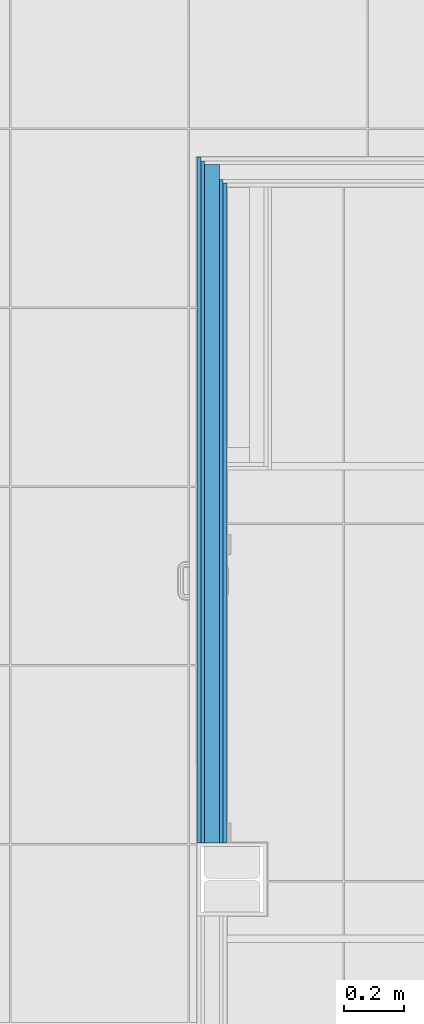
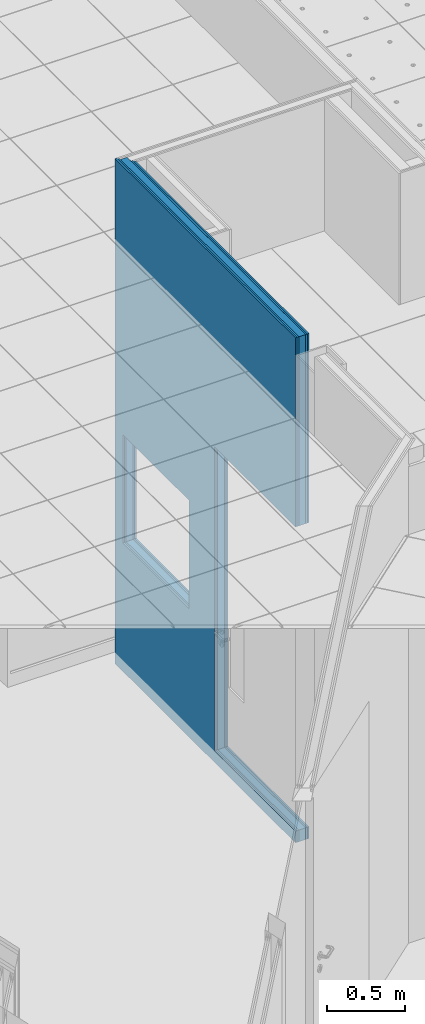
# One storey, part 44 of 321: 5 building element parts, 2 openings, 1 element without a shape of its own.
"""IFC2X3 building model written with IfcOpenShell, lengths in millimetres."""

from ifc_helpers import new_model, entity, si_unit, converted_unit, derived_unit, money_unit, direction, frame, origin_with_axes, place, context, subcontext, project, spatial, faceted_brep, material, type_object, element, aggregate, save


model = new_model("IFC2X3")

# Units and contexts
model_context = context("Model", 3, precision=0.01, world=origin_with_axes(), true_north=direction((0.0, 1.0)))
plan_context = context("Plan", 3, precision=0.01, world=origin_with_axes(), true_north=direction((0.0, 1.0)))
body_context = subcontext(model_context, "Body", "Model", "MODEL_VIEW")
ifc_project = project(units=[si_unit("LENGTHUNIT", "METRE", prefix="MILLI"), si_unit("AREAUNIT", "SQUARE_METRE"), si_unit("VOLUMEUNIT", "CUBIC_METRE"), converted_unit("PLANEANGLEUNIT", "DEGREE", entity("IfcPlaneAngleMeasure", 0.0174532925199), si_unit("PLANEANGLEUNIT", "RADIAN"), dimensions=[0, 0, 0, 0, 0, 0, 0]), money_unit("EUR"), converted_unit("TIMEUNIT", "Year", entity("IfcTimeMeasure", 31556926.0), si_unit("TIMEUNIT", "SECOND"), dimensions=[0, 0, 1, 0, 0, 0, 0]), si_unit("MASSUNIT", "GRAM", prefix="KILO"), si_unit("THERMODYNAMICTEMPERATUREUNIT", "DEGREE_CELSIUS"), si_unit("LUMINOUSINTENSITYUNIT", "LUMEN"), si_unit("ENERGYUNIT", "JOULE", prefix="MEGA"), derived_unit("THERMALCONDUCTANCEUNIT", [(si_unit("POWERUNIT", "WATT"), 1), (si_unit("LENGTHUNIT", "METRE"), -1), (si_unit("THERMODYNAMICTEMPERATUREUNIT", "KELVIN"), -1)]), derived_unit("SPECIFICHEATCAPACITYUNIT", [(si_unit("ENERGYUNIT", "JOULE"), 1), (si_unit("MASSUNIT", "GRAM", prefix="KILO"), -1), (si_unit("THERMODYNAMICTEMPERATUREUNIT", "KELVIN"), -1)]), derived_unit("MASSDENSITYUNIT", [(si_unit("MASSUNIT", "GRAM", prefix="KILO"), 1), (si_unit("VOLUMEUNIT", "CUBIC_METRE"), -1)])], contexts=[model_context, plan_context])

# Site, building, storey
site_placement = place(None, origin_with_axes())
site = spatial("IfcSite", under=ifc_project, at=site_placement, Name="Fortuinstraat Woensdrecht", CompositionType="ELEMENT")
building_placement = place(site_placement, origin_with_axes())
building = spatial("IfcBuilding", under=site, at=building_placement, Name="IKC Fortuna", CompositionType="ELEMENT")
storey_placement = place(building_placement, frame((0.0, 0.0, 4000.0), z_axis=(0.0, 0.0, 1.0), x_axis=(1.0, 0.0, 0.0)))
storey = spatial("IfcBuildingStorey", under=building, at=storey_placement, Name="01 eerste verdieping", CompositionType="ELEMENT", Elevation=4000.0)

# Wall, openings, building element parts
wall_type = type_object("IfcWallType", Name="MS100 2.50.2A 100", PredefinedType="NOTDEFINED")
wall_placement = place(storey_placement, frame((25497.9349765, 3844.79662827, -90.0), z_axis=(0.0, 0.0, 1.0), x_axis=(0.0, 1.0, 0.0)))
wall = element("IfcWall", 1, at=wall_placement, inside=storey, type_object=wall_type, Name="22_Wand_Binnenwand")
opening_1_placement = place(wall_placement, frame((517.0, 0.0, 90.0), z_axis=(0.0, 0.0, 1.0), x_axis=(1.0, 0.0, 0.0)))
element("IfcOpeningElement", 2, at=opening_1_placement, cuts=wall, Name="32_Deur_h.01d", context=body_context, shape_type="Brep", body=[
    faceted_brep([(-517.0, 200.0, 2367.0), (-517.0, 200.0, 0.0), (-517.0, -100.0, 0.0), (-517.0, -100.0, 2367.0), (517.0, 200.0, 2367.0), (517.0, 200.0, 0.0), (517.0, -100.0, 0.0), (517.0, -100.0, 2367.0)], [[[0, 1, 2, 3]], [[0, 4, 5, 1]], [[1, 5, 6, 2]], [[3, 2, 6, 7]], [[4, 0, 3, 7]], [[5, 4, 7, 6]]]),
])
opening_2_placement = place(wall_placement, frame((-3844.79662827, 25497.9349765, -3910.0), z_axis=(0.0, 0.0, 1.0), x_axis=(0.0, -1.0, 0.0)))
element("IfcOpeningElement", 3, at=opening_2_placement, cuts=wall, Name="_Lege opening_Opening-x", context=body_context, shape_type="Brep", body=[
    faceted_brep([(25697.9349765, 5203.666178, 4910.0), (25697.9349765, 5203.666178, 5752.0), (25397.9349765, 5203.666178, 5752.0), (25397.9349765, 5203.666178, 4910.0), (25697.9349765, 6045.666178, 4910.0), (25697.9349765, 6045.666178, 5752.0), (25397.9349765, 6045.666178, 5752.0), (25397.9349765, 6045.666178, 4910.0)], [[[0, 1, 2, 3]], [[0, 4, 5, 1]], [[1, 5, 6, 2]], [[3, 2, 6, 7]], [[4, 0, 3, 7]], [[5, 4, 7, 6]]]),
])
ifc_material_1 = material(Name="Gipsplaat")
building_element_part_1_placement = place(wall_placement, origin_with_axes())
building_element_part_1 = element("IfcBuildingElementPart", 4, at=building_element_part_1_placement, material=ifc_material_1, Name="Gipsplaat", context=body_context, shape_type="Brep", body=[
    faceted_brep([(1034.0, -12.5, 90.0), (0.0, -12.5, 90.0), (0.0, -12.5, 0.0), (2300.86954973, -12.5, 0.0), (2300.86954973, -12.5, 3930.0), (0.0, -12.5, 3930.0), (0.0, -12.5, 2457.0), (1034.0, -12.5, 2457.0), (1358.86954973, -12.5, 1842.0), (2200.86954973, -12.5, 1842.0), (2200.86954973, -12.5, 1000.0), (1358.86954973, -12.5, 1000.0), (1034.0, 0.0, 90.0), (0.0, 0.0, 90.0), (0.0, 0.0, 0.0), (2300.86954973, 0.0, 0.0), (2300.86954973, 0.0, 3930.0), (0.0, 0.0, 3930.0), (0.0, 0.0, 2457.0), (1034.0, 0.0, 2457.0), (1358.86954973, 0.0, 1842.0), (2200.86954973, 0.0, 1842.0), (2200.86954973, 0.0, 1000.0), (1358.86954973, 0.0, 1000.0)], [[[0, 1, 2, 3, 4, 5, 6, 7], [8, 9, 10, 11]], [[1, 0, 12, 13]], [[1, 13, 14, 2]], [[3, 2, 14, 15]], [[4, 3, 15, 16]], [[16, 17, 5, 4]], [[18, 6, 5, 17]], [[7, 6, 18, 19]], [[0, 7, 19, 12]], [[8, 20, 21, 9]], [[9, 21, 22, 10]], [[10, 22, 23, 11]], [[11, 23, 20, 8]], [[19, 18, 17, 16, 15, 14, 13, 12], [22, 21, 20, 23]]]),
])
building_element_part_2_placement = place(wall_placement, origin_with_axes())
building_element_part_2 = element("IfcBuildingElementPart", 5, at=building_element_part_2_placement, material=ifc_material_1, Name="Gipsplaat", context=body_context, shape_type="Brep", body=[
    faceted_brep([(1034.0, -25.0, 90.0), (0.0, -25.0, 90.0), (0.0, -25.0, 0.0), (2288.36954973, -25.0, 0.0), (2288.36954973, -25.0, 3930.0), (0.0, -25.0, 3930.0), (0.0, -25.0, 2457.0), (1034.0, -25.0, 2457.0), (1358.86954973, -25.0, 1842.0), (2200.86954973, -25.0, 1842.0), (2200.86954973, -25.0, 1000.0), (1358.86954973, -25.0, 1000.0), (1034.0, -12.5, 90.0), (0.0, -12.5, 90.0), (0.0, -12.5, 0.0), (2288.36954973, -12.5, 0.0), (2288.36954973, -12.5, 3930.0), (0.0, -12.5, 3930.0), (0.0, -12.5, 2457.0), (1034.0, -12.5, 2457.0), (1358.86954973, -12.5, 1842.0), (2200.86954973, -12.5, 1842.0), (2200.86954973, -12.5, 1000.0), (1358.86954973, -12.5, 1000.0)], [[[0, 1, 2, 3, 4, 5, 6, 7], [8, 9, 10, 11]], [[1, 0, 12, 13]], [[1, 13, 14, 2]], [[2, 14, 15, 3]], [[16, 4, 3, 15]], [[17, 5, 4, 16]], [[18, 6, 5, 17]], [[7, 6, 18, 19]], [[0, 7, 19, 12]], [[8, 20, 21, 9]], [[9, 21, 22, 10]], [[10, 22, 23, 11]], [[11, 23, 20, 8]], [[19, 18, 17, 16, 15, 14, 13, 12], [22, 21, 20, 23]]]),
])
ifc_material_2 = material(Name="Isolatie - Steenwol LSW")
building_element_part_3_placement = place(wall_placement, origin_with_axes())
building_element_part_3 = element("IfcBuildingElementPart", 6, at=building_element_part_3_placement, material=ifc_material_2, Name="Isolatie - Steenwol LSW", context=body_context, shape_type="Brep", body=[
    faceted_brep([(1034.0, -75.0, 90.0), (0.0, -75.0, 90.0), (0.0, -75.0, 0.0), (2275.86954973, -75.0, 0.0), (2275.86954973, -75.0, 3930.0), (0.0, -75.0, 3930.0), (0.0, -75.0, 2457.0), (1034.0, -75.0, 2457.0), (1358.86954973, -75.0, 1842.0), (2200.86954973, -75.0, 1842.0), (2200.86954973, -75.0, 1000.0), (1358.86954973, -75.0, 1000.0), (1034.0, -25.0, 90.0), (0.0, -25.0, 90.0), (0.0, -25.0, 0.0), (2275.86954973, -25.0, 0.0), (2275.86954973, -25.0, 3930.0), (0.0, -25.0, 3930.0), (0.0, -25.0, 2457.0), (1034.0, -25.0, 2457.0), (1358.86954973, -25.0, 1842.0), (2200.86954973, -25.0, 1842.0), (2200.86954973, -25.0, 1000.0), (1358.86954973, -25.0, 1000.0)], [[[0, 1, 2, 3, 4, 5, 6, 7], [8, 9, 10, 11]], [[1, 0, 12, 13]], [[1, 13, 14, 2]], [[2, 14, 15, 3]], [[16, 4, 3, 15]], [[17, 5, 4, 16]], [[18, 6, 5, 17]], [[7, 6, 18, 19]], [[0, 7, 19, 12]], [[8, 20, 21, 9]], [[9, 21, 22, 10]], [[10, 22, 23, 11]], [[11, 23, 20, 8]], [[19, 18, 17, 16, 15, 14, 13, 12], [22, 21, 20, 23]]]),
])
building_element_part_4_placement = place(wall_placement, origin_with_axes())
building_element_part_4 = element("IfcBuildingElementPart", 7, at=building_element_part_4_placement, material=ifc_material_1, Name="Gipsplaat", context=body_context, shape_type="Brep", body=[
    faceted_brep([(1034.0, -87.5, 90.0), (0.0, -87.5, 90.0), (0.0, -87.5, 0.0), (2225.86954973, -87.5, 0.0), (2225.86954973, -87.5, 3930.0), (0.0, -87.5, 3930.0), (0.0, -87.5, 2457.0), (1034.0, -87.5, 2457.0), (1358.86954973, -87.5, 1842.0), (2200.86954973, -87.5, 1842.0), (2200.86954973, -87.5, 1000.0), (1358.86954973, -87.5, 1000.0), (1034.0, -75.0, 90.0), (0.0, -75.0, 90.0), (0.0, -75.0, 0.0), (2225.86954973, -75.0, 0.0), (2225.86954973, -75.0, 3930.0), (0.0, -75.0, 3930.0), (0.0, -75.0, 2457.0), (1034.0, -75.0, 2457.0), (1358.86954973, -75.0, 1842.0), (2200.86954973, -75.0, 1842.0), (2200.86954973, -75.0, 1000.0), (1358.86954973, -75.0, 1000.0)], [[[0, 1, 2, 3, 4, 5, 6, 7], [8, 9, 10, 11]], [[1, 0, 12, 13]], [[1, 13, 14, 2]], [[2, 14, 15, 3]], [[16, 4, 3, 15]], [[17, 5, 4, 16]], [[18, 6, 5, 17]], [[7, 6, 18, 19]], [[0, 7, 19, 12]], [[8, 20, 21, 9]], [[9, 21, 22, 10]], [[10, 22, 23, 11]], [[11, 23, 20, 8]], [[19, 18, 17, 16, 15, 14, 13, 12], [22, 21, 20, 23]]]),
])
building_element_part_5_placement = place(wall_placement, origin_with_axes())
building_element_part_5 = element("IfcBuildingElementPart", 8, at=building_element_part_5_placement, material=ifc_material_1, Name="Gipsplaat", context=body_context, shape_type="Brep", body=[
    faceted_brep([(1034.0, -100.0, 90.0), (0.0, -100.0, 90.0), (0.0, -100.0, 0.0), (2213.36954973, -100.0, 0.0), (2213.36954973, -100.0, 3930.0), (0.0, -100.0, 3930.0), (0.0, -100.0, 2457.0), (1034.0, -100.0, 2457.0), (1358.86954973, -100.0, 1842.0), (2200.86954973, -100.0, 1842.0), (2200.86954973, -100.0, 1000.0), (1358.86954973, -100.0, 1000.0), (1034.0, -87.5, 90.0), (0.0, -87.5, 90.0), (0.0, -87.5, 0.0), (2213.36954973, -87.5, 0.0), (2213.36954973, -87.5, 3930.0), (0.0, -87.5, 3930.0), (0.0, -87.5, 2457.0), (1034.0, -87.5, 2457.0), (1358.86954973, -87.5, 1842.0), (2200.86954973, -87.5, 1842.0), (2200.86954973, -87.5, 1000.0), (1358.86954973, -87.5, 1000.0)], [[[0, 1, 2, 3, 4, 5, 6, 7], [8, 9, 10, 11]], [[1, 0, 12, 13]], [[1, 13, 14, 2]], [[2, 14, 15, 3]], [[16, 4, 3, 15]], [[17, 5, 4, 16]], [[18, 6, 5, 17]], [[7, 6, 18, 19]], [[0, 7, 19, 12]], [[8, 20, 21, 9]], [[9, 21, 22, 10]], [[10, 22, 23, 11]], [[11, 23, 20, 8]], [[19, 18, 17, 16, 15, 14, 13, 12], [22, 21, 20, 23]]]),
])
aggregate(wall, [building_element_part_1, building_element_part_2, building_element_part_3, building_element_part_4, building_element_part_5])

save(model, "model.ifc")
